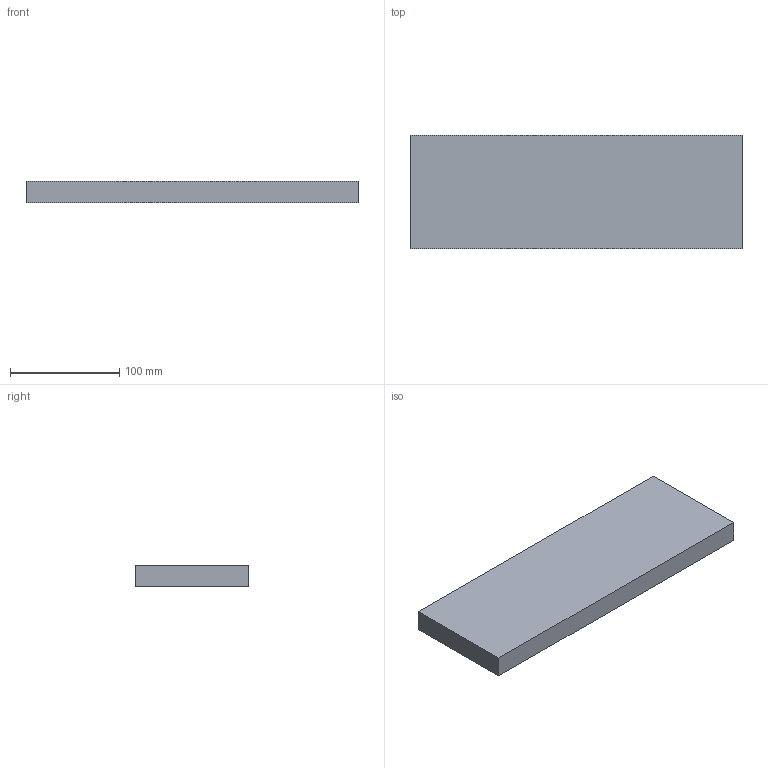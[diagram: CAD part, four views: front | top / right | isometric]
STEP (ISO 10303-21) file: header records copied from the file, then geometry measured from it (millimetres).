
FILE_DESCRIPTION (( 'STEP AP203' ), '1' );
FILE_NAME ('Isolation_Fond.STEP', '2026-06-24T07:29:49', ( '' ), ( '' ), 'SwSTEP 2.0', 'SolidWorks 2024', '' );
FILE_SCHEMA (( 'CONFIG_CONTROL_DESIGN' ));
Length unit declared in the file: millimetre
Products named in the file (1): Isolation_Fond
Bounding box: 304 x 104 x 20 mm (x, y, z)
Volume: 632320 mm3; surface area: 79552 mm2
Topology: 1 solids, 1 shells, 6 faces, 12 edges, 8 vertices
Faces by surface type: plane 6
Entity records: 231 total; most frequent: CARTESIAN_POINT 27, DIRECTION 26, ORIENTED_EDGE 24, LINE 12, VECTOR 12, EDGE_CURVE 12, PERSON_AND_ORGANIZATION 8, VERTEX_POINT 8
